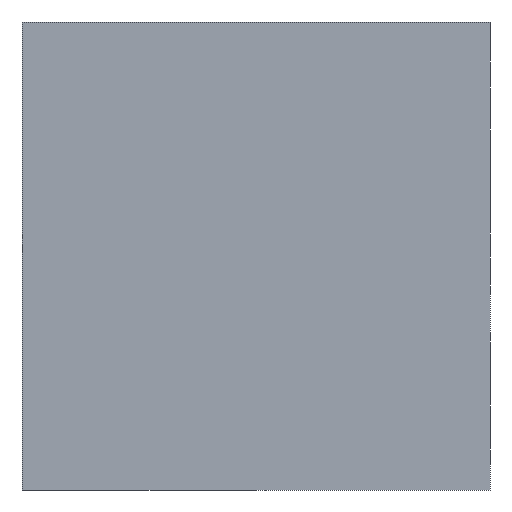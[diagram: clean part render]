
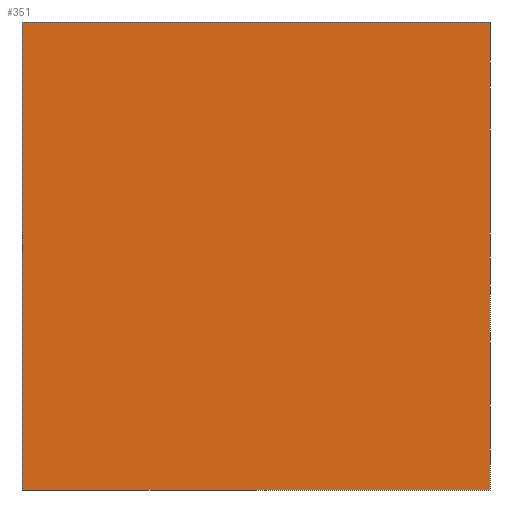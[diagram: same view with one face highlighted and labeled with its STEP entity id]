
A CAD part, left-side view. The second image highlights one B-rep face of the part: STEP entity #351.
In plain terms, the highlighted planar face has unit normal (-1, 0, 0).
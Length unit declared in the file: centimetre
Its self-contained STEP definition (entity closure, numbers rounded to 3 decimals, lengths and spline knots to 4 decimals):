
#6 = EDGE_CURVE ( 'NONE', #403, #67, #411, .T. ) ;
#8 = EDGE_CURVE ( 'NONE', #177, #303, #447, .T. ) ;
#14 = DIRECTION ( 'NONE',  ( 0., -1., 0. ) ) ;
#28 = VECTOR ( 'NONE', #14, 100. ) ;
#45 = CARTESIAN_POINT ( 'NONE',  ( 0., 0., 0. ) ) ;
#51 = PLANE ( 'NONE',  #261 ) ;
#67 = VERTEX_POINT ( 'NONE', #45 ) ;
#76 = DIRECTION ( 'NONE',  ( 1., 0., 0. ) ) ;
#79 = FACE_OUTER_BOUND ( 'NONE', #271, .T. ) ;
#83 = CARTESIAN_POINT ( 'NONE',  ( 0., 1000., 0. ) ) ;
#86 = VECTOR ( 'NONE', #148, 100. ) ;
#89 = EDGE_CURVE ( 'NONE', #303, #67, #353, .T. ) ;
#102 = ORIENTED_EDGE ( 'NONE', *, *, #89, .T. ) ;
#110 = CARTESIAN_POINT ( 'NONE',  ( 0., 1000., 1000. ) ) ;
#111 = CARTESIAN_POINT ( 'NONE',  ( 0., 0., 1000. ) ) ;
#143 = DIRECTION ( 'NONE',  ( 0., -1., 0. ) ) ;
#148 = DIRECTION ( 'NONE',  ( 0., 0., -1. ) ) ;
#177 = VERTEX_POINT ( 'NONE', #190 ) ;
#185 = CARTESIAN_POINT ( 'NONE',  ( 0., 1000., 1000. ) ) ;
#189 = ORIENTED_EDGE ( 'NONE', *, *, #8, .T. ) ;
#190 = CARTESIAN_POINT ( 'NONE',  ( 0., 1000., 1000. ) ) ;
#219 = EDGE_CURVE ( 'NONE', #177, #403, #406, .T. ) ;
#228 = ORIENTED_EDGE ( 'NONE', *, *, #6, .F. ) ;
#231 = CARTESIAN_POINT ( 'NONE',  ( 0., 0., 1000. ) ) ;
#261 = AXIS2_PLACEMENT_3D ( 'NONE', #272, #76, #462 ) ;
#271 = EDGE_LOOP ( 'NONE', ( #102, #228, #331, #189 ) ) ;
#272 = CARTESIAN_POINT ( 'NONE',  ( 0., 1000., 1000. ) ) ;
#303 = VERTEX_POINT ( 'NONE', #83 ) ;
#309 = VECTOR ( 'NONE', #143, 100. ) ;
#331 = ORIENTED_EDGE ( 'NONE', *, *, #219, .F. ) ;
#346 = VECTOR ( 'NONE', #491, 100. ) ;
#351 = ADVANCED_FACE ( 'NONE', ( #79 ), #51, .F. ) ;
#353 = LINE ( 'NONE', #391, #28 ) ;
#391 = CARTESIAN_POINT ( 'NONE',  ( 0., 1000., 0. ) ) ;
#403 = VERTEX_POINT ( 'NONE', #111 ) ;
#406 = LINE ( 'NONE', #185, #309 ) ;
#411 = LINE ( 'NONE', #231, #86 ) ;
#447 = LINE ( 'NONE', #110, #346 ) ;
#462 = DIRECTION ( 'NONE',  ( 0., 0., -1. ) ) ;
#491 = DIRECTION ( 'NONE',  ( 0., 0., -1. ) ) ;
